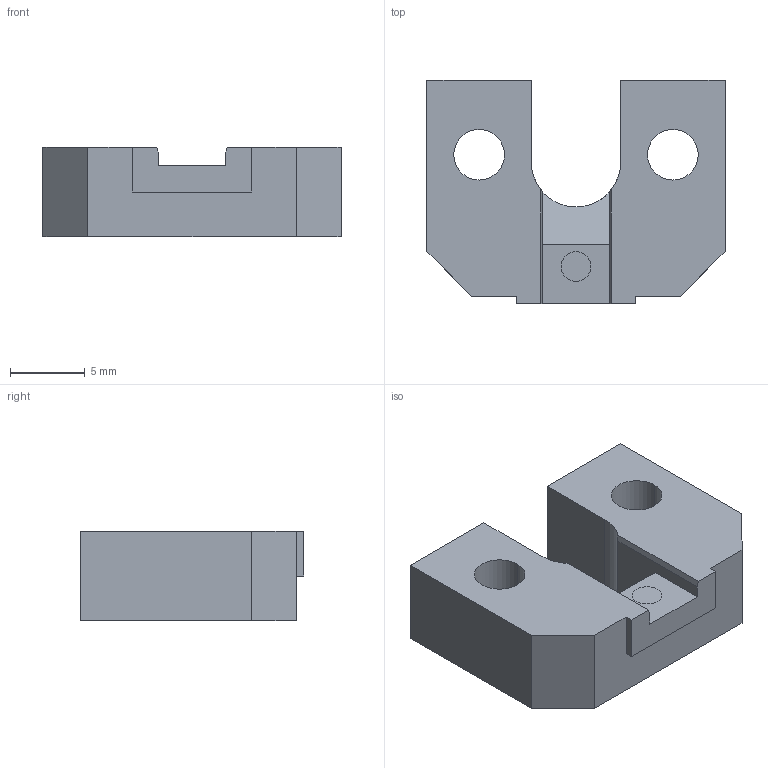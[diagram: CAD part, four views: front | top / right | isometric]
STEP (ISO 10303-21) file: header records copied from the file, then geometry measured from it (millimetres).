
FILE_DESCRIPTION (( 'STEP AP214' ), '1' );
FILE_NAME ('MBCO-00-03-002 棠釱煦燭輸.STEP', '2026-08-19T10:39:33', ( '' ), ( '' ), 'SwSTEP 2.0', 'SolidWorks 2022', '' );
FILE_SCHEMA (( 'AUTOMOTIVE_DESIGN' ));
Length unit declared in the file: millimetre
Products named in the file (1): MBCO-00-03-002 磁座分离块
Bounding box: 20 x 15 x 6 mm (x, y, z)
Volume: 1097.4 mm3; surface area: 1181.2 mm2
Topology: 2 solids, 2 shells, 46 faces, 114 edges, 76 vertices
Faces by surface type: plane 28, cylinder 18
Entity records: 1429 total; most frequent: CARTESIAN_POINT 249, DIRECTION 240, ORIENTED_EDGE 228, EDGE_CURVE 114, AXIS2_PLACEMENT_3D 83, VERTEX_POINT 76, VECTOR 74, LINE 74
